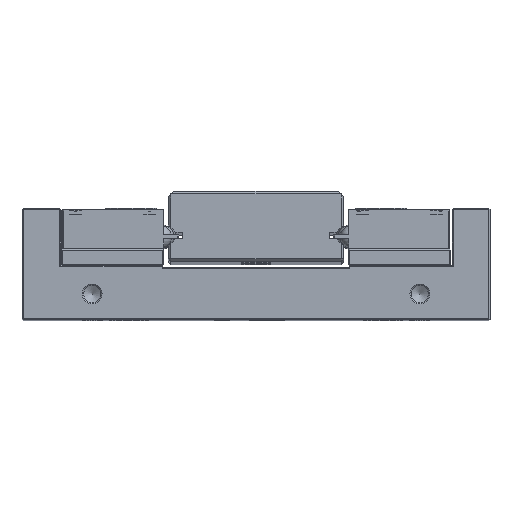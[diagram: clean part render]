
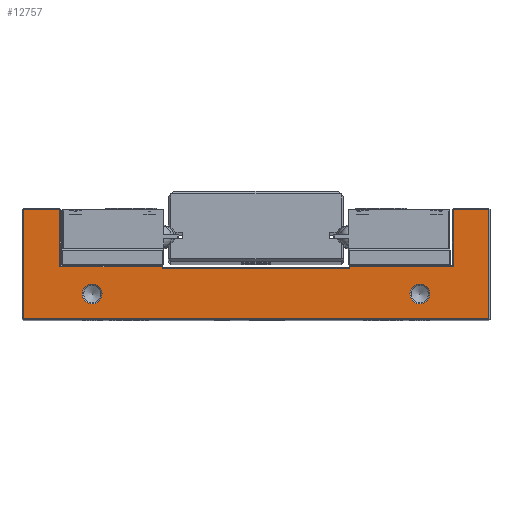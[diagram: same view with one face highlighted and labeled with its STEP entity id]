
A CAD part, top view. The second image highlights one B-rep face of the part: STEP entity #12757.
In plain terms, the highlighted planar face has unit normal (0, 0, 1).
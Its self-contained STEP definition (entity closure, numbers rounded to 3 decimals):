
#436=FACE_BOUND('',#2278,.T.);
#437=FACE_BOUND('',#2279,.T.);
#868=PLANE('',#13871);
#1487=FACE_OUTER_BOUND('',#2277,.T.);
#2277=EDGE_LOOP('',(#10495,#10496,#10497,#10498,#10499,#10500,#10501,#10502,
#10503,#10504,#10505,#10506));
#2278=EDGE_LOOP('',(#10507));
#2279=EDGE_LOOP('',(#10508));
#3297=LINE('',#21368,#4348);
#3335=LINE('',#21487,#4386);
#3336=LINE('',#21490,#4387);
#3338=LINE('',#21494,#4389);
#3339=LINE('',#21496,#4390);
#3340=LINE('',#21498,#4391);
#3341=LINE('',#21500,#4392);
#3342=LINE('',#21502,#4393);
#3343=LINE('',#21504,#4394);
#3344=LINE('',#21506,#4395);
#3345=LINE('',#21507,#4396);
#3346=LINE('',#21508,#4397);
#4348=VECTOR('',#16517,10.);
#4386=VECTOR('',#16647,10.);
#4387=VECTOR('',#16650,10.);
#4389=VECTOR('',#16654,10.);
#4390=VECTOR('',#16655,10.);
#4391=VECTOR('',#16656,10.);
#4392=VECTOR('',#16657,10.);
#4393=VECTOR('',#16658,10.);
#4394=VECTOR('',#16659,10.);
#4395=VECTOR('',#16660,10.);
#4396=VECTOR('',#16661,10.);
#4397=VECTOR('',#16662,10.);
#4948=CIRCLE('',#13872,3.824);
#4949=CIRCLE('',#13873,3.824);
#5905=VERTEX_POINT('',#21365);
#5906=VERTEX_POINT('',#21367);
#5940=VERTEX_POINT('',#21483);
#5941=VERTEX_POINT('',#21485);
#5942=VERTEX_POINT('',#21489);
#5943=VERTEX_POINT('',#21493);
#5944=VERTEX_POINT('',#21495);
#5945=VERTEX_POINT('',#21497);
#5946=VERTEX_POINT('',#21499);
#5947=VERTEX_POINT('',#21501);
#5948=VERTEX_POINT('',#21503);
#5949=VERTEX_POINT('',#21505);
#5950=VERTEX_POINT('',#21509);
#5951=VERTEX_POINT('',#21511);
#7465=EDGE_CURVE('',#5906,#5905,#3297,.T.);
#7525=EDGE_CURVE('',#5941,#5940,#3335,.T.);
#7526=EDGE_CURVE('',#5942,#5940,#3336,.T.);
#7528=EDGE_CURVE('',#5943,#5941,#3338,.T.);
#7529=EDGE_CURVE('',#5944,#5943,#3339,.T.);
#7530=EDGE_CURVE('',#5945,#5944,#3340,.T.);
#7531=EDGE_CURVE('',#5946,#5945,#3341,.T.);
#7532=EDGE_CURVE('',#5947,#5946,#3342,.T.);
#7533=EDGE_CURVE('',#5948,#5947,#3343,.T.);
#7534=EDGE_CURVE('',#5949,#5948,#3344,.T.);
#7535=EDGE_CURVE('',#5906,#5949,#3345,.T.);
#7536=EDGE_CURVE('',#5942,#5905,#3346,.T.);
#7537=EDGE_CURVE('',#5950,#5950,#4948,.T.);
#7538=EDGE_CURVE('',#5951,#5951,#4949,.T.);
#10495=ORIENTED_EDGE('',*,*,#7525,.F.);
#10496=ORIENTED_EDGE('',*,*,#7528,.F.);
#10497=ORIENTED_EDGE('',*,*,#7529,.F.);
#10498=ORIENTED_EDGE('',*,*,#7530,.F.);
#10499=ORIENTED_EDGE('',*,*,#7531,.F.);
#10500=ORIENTED_EDGE('',*,*,#7532,.F.);
#10501=ORIENTED_EDGE('',*,*,#7533,.F.);
#10502=ORIENTED_EDGE('',*,*,#7534,.F.);
#10503=ORIENTED_EDGE('',*,*,#7535,.F.);
#10504=ORIENTED_EDGE('',*,*,#7465,.T.);
#10505=ORIENTED_EDGE('',*,*,#7536,.F.);
#10506=ORIENTED_EDGE('',*,*,#7526,.T.);
#10507=ORIENTED_EDGE('',*,*,#7537,.F.);
#10508=ORIENTED_EDGE('',*,*,#7538,.F.);
#12757=ADVANCED_FACE('',(#1487,#436,#437),#868,.T.);
#13871=AXIS2_PLACEMENT_3D('',#21492,#16652,#16653);
#13872=AXIS2_PLACEMENT_3D('',#21510,#16663,#16664);
#13873=AXIS2_PLACEMENT_3D('',#21512,#16665,#16666);
#16517=DIRECTION('',(0.,-1.,0.));
#16647=DIRECTION('',(1.,0.,0.));
#16650=DIRECTION('',(0.,1.,0.));
#16652=DIRECTION('center_axis',(0.,0.,
1.));
#16653=DIRECTION('ref_axis',(1.,0.,0.));
#16654=DIRECTION('',(0.,-1.,0.));
#16655=DIRECTION('',(1.,0.,0.));
#16656=DIRECTION('',(0.,1.,0.));
#16657=DIRECTION('',(-1.,0.,0.));
#16658=DIRECTION('',(0.,-1.,0.));
#16659=DIRECTION('',(1.,0.,0.));
#16660=DIRECTION('',(0.,1.,0.));
#16661=DIRECTION('',(1.,0.,0.));
#16662=DIRECTION('',(1.,0.,0.));
#16663=DIRECTION('center_axis',(0.,0.,
1.));
#16664=DIRECTION('ref_axis',(-1.,0.,0.));
#16665=DIRECTION('center_axis',(0.,0.,
1.));
#16666=DIRECTION('ref_axis',(-1.,0.,0.));
#21365=CARTESIAN_POINT('',(27.11,-21.38,59.754));
#21367=CARTESIAN_POINT('',(27.11,-20.58,59.754));
#21368=CARTESIAN_POINT('',(27.11,-20.08,59.754));
#21483=CARTESIAN_POINT('',(-44.89,-20.58,59.754));
#21485=CARTESIAN_POINT('',(-84.39,-20.58,59.754));
#21487=CARTESIAN_POINT('',(-26.89,-20.58,59.754));
#21489=CARTESIAN_POINT('',(-44.89,-21.38,59.754));
#21490=CARTESIAN_POINT('',(-44.89,-20.88,59.754));
#21492=CARTESIAN_POINT('Origin',(-8.89,-19.58,59.754));
#21493=CARTESIAN_POINT('',(-84.39,1.42,59.754));
#21494=CARTESIAN_POINT('',(-84.39,-19.83,59.754));
#21495=CARTESIAN_POINT('',(-98.39,1.42,59.754));
#21496=CARTESIAN_POINT('',(-46.39,1.42,59.754));
#21497=CARTESIAN_POINT('',(-98.39,-40.58,59.754));
#21498=CARTESIAN_POINT('',(-98.39,-8.83,59.754));
#21499=CARTESIAN_POINT('',(80.61,-40.58,59.754));
#21500=CARTESIAN_POINT('',(-53.89,-40.58,59.754));
#21501=CARTESIAN_POINT('',(80.61,1.42,59.754));
#21502=CARTESIAN_POINT('',(80.61,-30.33,59.754));
#21503=CARTESIAN_POINT('',(67.11,1.42,59.754));
#21504=CARTESIAN_POINT('',(36.11,1.42,59.754));
#21505=CARTESIAN_POINT('',(67.11,-20.58,59.754));
#21506=CARTESIAN_POINT('',(67.11,-8.83,59.754));
#21507=CARTESIAN_POINT('',(28.86,-20.58,59.754));
#21508=CARTESIAN_POINT('',(9.11,-21.38,59.754));
#21509=CARTESIAN_POINT('',(57.933,-31.08,59.754));
#21510=CARTESIAN_POINT('Origin',(54.11,-31.08,59.754));
#21511=CARTESIAN_POINT('',(-68.067,-31.08,59.754));
#21512=CARTESIAN_POINT('Origin',(-71.89,-31.08,59.754));
